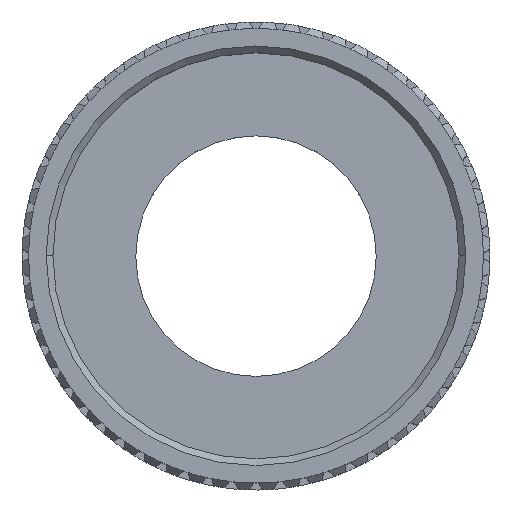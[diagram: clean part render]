
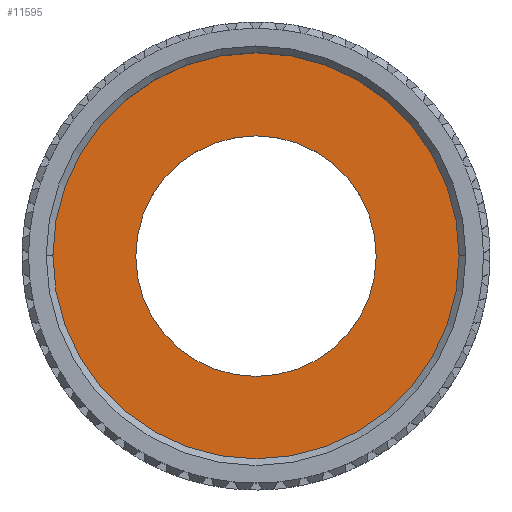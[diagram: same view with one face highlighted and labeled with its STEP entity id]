
A CAD part, top view. The second image highlights one B-rep face of the part: STEP entity #11595.
In plain terms, the highlighted planar face has unit normal (0, 0, 1).
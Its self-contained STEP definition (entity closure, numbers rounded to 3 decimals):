
#12 = CARTESIAN_POINT ( 'NONE',  ( 15.35, 0., 2. ) ) ;
#312 = EDGE_LOOP ( 'NONE', ( #2993, #5301 ) ) ;
#453 = EDGE_CURVE ( 'NONE', #1618, #10388, #11572, .T. ) ;
#680 = DIRECTION ( 'NONE',  ( 0., 0., 1. ) ) ;
#718 = CARTESIAN_POINT ( 'NONE',  ( 0., 0., 2. ) ) ;
#858 = FACE_BOUND ( 'NONE', #5420, .T. ) ;
#1462 = EDGE_CURVE ( 'NONE', #3147, #9656, #7873, .T. ) ;
#1618 = VERTEX_POINT ( 'NONE', #4875 ) ;
#1676 = ORIENTED_EDGE ( 'NONE', *, *, #12007, .T. ) ;
#1771 = ORIENTED_EDGE ( 'NONE', *, *, #453, .T. ) ;
#2722 = CARTESIAN_POINT ( 'NONE',  ( 0., 0., 2. ) ) ;
#2932 = FACE_OUTER_BOUND ( 'NONE', #312, .T. ) ;
#2993 = ORIENTED_EDGE ( 'NONE', *, *, #1462, .T. ) ;
#3147 = VERTEX_POINT ( 'NONE', #9226 ) ;
#3280 = AXIS2_PLACEMENT_3D ( 'NONE', #718, #11395, #8274 ) ;
#3314 = AXIS2_PLACEMENT_3D ( 'NONE', #9421, #680, #9349 ) ;
#3864 = AXIS2_PLACEMENT_3D ( 'NONE', #10916, #4807, #11186 ) ;
#4807 = DIRECTION ( 'NONE',  ( 0., 0., 1. ) ) ;
#4845 = AXIS2_PLACEMENT_3D ( 'NONE', #2722, #9499, #5180 ) ;
#4861 = DIRECTION ( 'NONE',  ( -1., 0., 0. ) ) ;
#4875 = CARTESIAN_POINT ( 'NONE',  ( -9., 0., 2. ) ) ;
#4898 = PLANE ( 'NONE',  #3280 ) ;
#5180 = DIRECTION ( 'NONE',  ( -1., 0., 0. ) ) ;
#5301 = ORIENTED_EDGE ( 'NONE', *, *, #13445, .T. ) ;
#5420 = EDGE_LOOP ( 'NONE', ( #1771, #1676 ) ) ;
#5747 = CIRCLE ( 'NONE', #4845, 9. ) ;
#6330 = CARTESIAN_POINT ( 'NONE',  ( 9., 0., 2. ) ) ;
#6896 = CARTESIAN_POINT ( 'NONE',  ( 0., 0., 2. ) ) ;
#7873 = CIRCLE ( 'NONE', #3864, 15.35 ) ;
#8274 = DIRECTION ( 'NONE',  ( -1., 0., 0. ) ) ;
#9226 = CARTESIAN_POINT ( 'NONE',  ( -15.35, 0., 2. ) ) ;
#9349 = DIRECTION ( 'NONE',  ( -1., 0., 0. ) ) ;
#9421 = CARTESIAN_POINT ( 'NONE',  ( 0., 0., 2. ) ) ;
#9499 = DIRECTION ( 'NONE',  ( 0., 0., -1. ) ) ;
#9656 = VERTEX_POINT ( 'NONE', #12 ) ;
#10388 = VERTEX_POINT ( 'NONE', #6330 ) ;
#10916 = CARTESIAN_POINT ( 'NONE',  ( 0., 0., 2. ) ) ;
#11186 = DIRECTION ( 'NONE',  ( -1., 0., 0. ) ) ;
#11347 = AXIS2_PLACEMENT_3D ( 'NONE', #6896, #12271, #4861 ) ;
#11395 = DIRECTION ( 'NONE',  ( 0., 0., -1. ) ) ;
#11572 = CIRCLE ( 'NONE', #11347, 9. ) ;
#11595 = ADVANCED_FACE ( 'NONE', ( #2932, #858 ), #4898, .F. ) ;
#11731 = CIRCLE ( 'NONE', #3314, 15.35 ) ;
#12007 = EDGE_CURVE ( 'NONE', #10388, #1618, #5747, .T. ) ;
#12271 = DIRECTION ( 'NONE',  ( 0., 0., -1. ) ) ;
#13445 = EDGE_CURVE ( 'NONE', #9656, #3147, #11731, .T. ) ;
